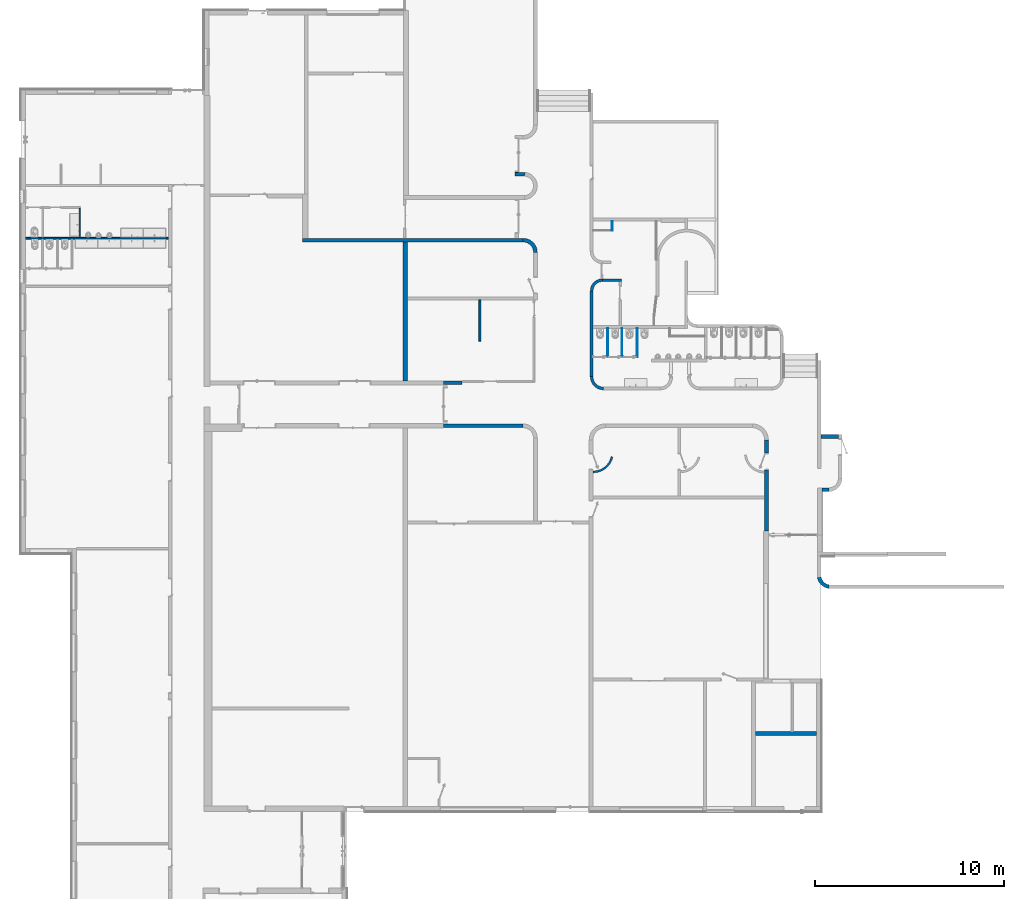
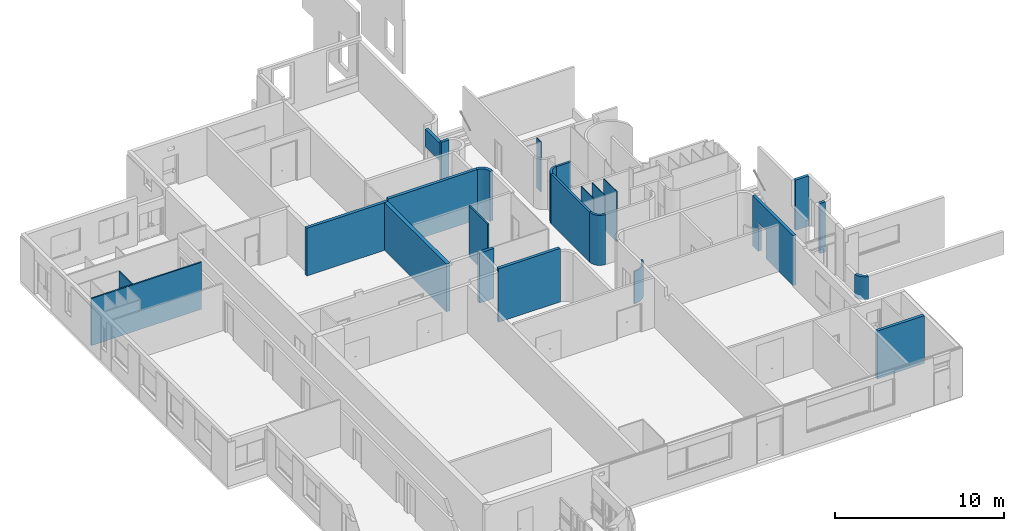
# One storey, part 6 of 9: 24 walls, 2 openings.
"""IFC2X3 building model written with IfcOpenShell, lengths in metres."""

from ifc_helpers import new_model, entity, si_unit, converted_unit, derived_unit, direction, frame, frame_2d, origin, place, context, subcontext, project, spatial, polyline, circle_curve, parameter, trimmed, segment, composite_curve, rectangle, outline, extrude, clip, halfspace, bounded_halfspace, material, layer, layer_set, layer_usage, type_object, element, save


model = new_model("IFC2X3")

# Units and contexts
model_context = context("Model", 3, precision=1e-05, world=origin(), true_north=direction((6.12303176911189e-17, 1.0)))
body_context = subcontext(model_context, "Body", "Model", "MODEL_VIEW")
ifc_project = project(units=[si_unit("LENGTHUNIT", "METRE"), si_unit("AREAUNIT", "SQUARE_METRE"), si_unit("VOLUMEUNIT", "CUBIC_METRE"), converted_unit("PLANEANGLEUNIT", "DEGREE", entity("IfcRatioMeasure", 0.0174532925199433), si_unit("PLANEANGLEUNIT", "RADIAN"), dimensions=[0, 0, 0, 0, 0, 0, 0]), si_unit("MASSUNIT", "GRAM", prefix="KILO"), derived_unit("MASSDENSITYUNIT", [(si_unit("MASSUNIT", "GRAM", prefix="KILO"), 1), (si_unit("LENGTHUNIT", "METRE"), -3)]), derived_unit("MOMENTOFINERTIAUNIT", [(si_unit("LENGTHUNIT", "METRE"), 4)]), si_unit("TIMEUNIT", "SECOND"), si_unit("FREQUENCYUNIT", "HERTZ"), si_unit("THERMODYNAMICTEMPERATUREUNIT", "DEGREE_CELSIUS"), derived_unit("THERMALTRANSMITTANCEUNIT", [(si_unit("MASSUNIT", "GRAM", prefix="KILO"), 1), (si_unit("THERMODYNAMICTEMPERATUREUNIT", "KELVIN"), -1), (si_unit("TIMEUNIT", "SECOND"), -3)]), derived_unit("VOLUMETRICFLOWRATEUNIT", [(si_unit("LENGTHUNIT", "METRE"), 3), (si_unit("TIMEUNIT", "SECOND"), -1)]), si_unit("ELECTRICCURRENTUNIT", "AMPERE"), si_unit("ELECTRICVOLTAGEUNIT", "VOLT"), si_unit("POWERUNIT", "WATT"), si_unit("FORCEUNIT", "NEWTON", prefix="KILO"), si_unit("ILLUMINANCEUNIT", "LUX"), si_unit("LUMINOUSFLUXUNIT", "LUMEN"), si_unit("LUMINOUSINTENSITYUNIT", "CANDELA"), derived_unit("USERDEFINED", [(si_unit("MASSUNIT", "GRAM", prefix="KILO"), -1), (si_unit("LENGTHUNIT", "METRE"), -2), (si_unit("TIMEUNIT", "SECOND"), 3), (si_unit("LUMINOUSFLUXUNIT", "LUMEN"), 1)]), derived_unit("LINEARVELOCITYUNIT", [(si_unit("LENGTHUNIT", "METRE"), 1), (si_unit("TIMEUNIT", "SECOND"), -1)]), si_unit("PRESSUREUNIT", "PASCAL"), derived_unit("USERDEFINED", [(si_unit("LENGTHUNIT", "METRE"), -2), (si_unit("MASSUNIT", "GRAM", prefix="KILO"), 1), (si_unit("TIMEUNIT", "SECOND"), -2)]), derived_unit("LINEARFORCEUNIT", [(si_unit("MASSUNIT", "GRAM", prefix="KILO"), 1), (si_unit("LENGTHUNIT", "METRE"), 1), (si_unit("TIMEUNIT", "SECOND"), -2), (si_unit("LENGTHUNIT", "METRE"), -1)]), derived_unit("PLANARFORCEUNIT", [(si_unit("MASSUNIT", "GRAM", prefix="KILO"), 1), (si_unit("LENGTHUNIT", "METRE"), 1), (si_unit("TIMEUNIT", "SECOND"), -2), (si_unit("LENGTHUNIT", "METRE"), -2)])], contexts=[model_context])

# Site, building, storey
site_placement = place(None, origin())
site = spatial("IfcSite", under=ifc_project, at=site_placement, Name="Default", CompositionType="ELEMENT")
building_placement = place(site_placement, origin())
building = spatial("IfcBuilding", under=site, at=building_placement, CompositionType="ELEMENT")
storey_placement = place(building_placement, frame((0.0, 0.0, 0.253308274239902)))
storey = spatial("IfcBuildingStorey", under=building, at=storey_placement, Name="Niveau 00 - 01", CompositionType="ELEMENT", Elevation=0.253308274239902)

# Walls
ifc_material_1 = material(Name="Maçonnerie - Voile BA")
ifc_layer_1 = layer(ifc_material_1, 0.25)
ifc_layer_set_1 = layer_set([ifc_layer_1], Name="Mur de base:Ext. Voile BA 250")
ifc_layer_usage_1 = layer_usage(ifc_layer_set_1, "AXIS2", "NEGATIVE", 0.125)
wall_type_1 = type_object("IfcWallType", Name="Mur de base:Ext. Voile BA 250", PredefinedType="STANDARD", material=ifc_layer_set_1)
wall_1_placement = place(storey_placement, frame((-25.7189891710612, -4.41874124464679, 0.0), z_axis=(0.0, 0.0, 1.0), x_axis=(0.0, -1.0, 0.0)))
element("IfcWallStandardCase", 1, at=wall_1_placement, inside=storey, type_object=wall_type_1, material=ifc_layer_usage_1, Name="Mur de base:Ext. Voile BA 250", ObjectType="Mur de base:Ext. Voile BA 250", context=body_context, shape_type="Clipping", body=[
    clip(extrude(rectangle(XDim=7.33031306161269, YDim=0.250000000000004, at=frame_2d((3.66515653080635, 1.94289029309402e-16), x_axis=(-1.0, 0.0))), origin(), (0.0, 0.0, 1.0), 3.45), bounded_halfspace(frame((0.0, -0.124999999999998, 3.45), z_axis=(0.0, 0.0, -1.0), x_axis=(0.0, -1.0, 0.0)), True, frame((0.0, -0.124999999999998, 3.45)), polyline([(0.0, 0.0), (7.33031306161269, 0.0), (7.33031306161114, 0.25), (0.0, 0.249999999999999), (0.0, 0.0)]))),
])
ifc_material_2 = material(Name="Finition vertical béton")
ifc_layer_2 = layer(ifc_material_2, 0.03)
ifc_layer_3 = layer(ifc_material_1, 0.17)
ifc_layer_set_2 = layer_set([ifc_layer_2, ifc_layer_3], Name="Mur de base:Mur EXE 200- Hach")
ifc_layer_usage_2 = layer_usage(ifc_layer_set_2, "AXIS2", "POSITIVE", -0.1)
wall_type_2 = type_object("IfcWallType", Name="Mur de base:Mur EXE 200- Hach", PredefinedType="STANDARD", material=ifc_layer_set_2)
wall_2_placement = place(storey_placement, frame((-3.31775009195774, -22.6341095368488, -0.303308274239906), z_axis=(0.0, 0.0, 1.0), x_axis=(-1.0, 0.0, 0.0)))
element("IfcWallStandardCase", 2, at=wall_2_placement, inside=storey, type_object=wall_type_2, material=ifc_layer_usage_2, Name="Mur de base:Mur EXE 200- Hach", ObjectType="Mur de base:Mur EXE 200- Hach", context=body_context, shape_type="SweptSolid", body=[
    extrude(outline(composite_curve([segment(trimmed(circle_curve(frame_2d((-0.100533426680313, -0.633695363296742), x_axis=(1.0, 0.0)), 0.741620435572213), [parameter(11.4843626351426)], [parameter(80.9853641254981)], True, "PARAMETER"), True, "CONTINUOUS"), segment(polyline([(0.0156686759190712, 0.0987648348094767), (-0.00134253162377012, -0.101235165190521)]), True, "CONTINUOUS"), segment(trimmed(circle_curve(frame_2d((-0.100533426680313, -0.633695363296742), x_axis=(1.0, 0.0)), 0.541620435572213), [parameter(13.446836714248)], [parameter(79.4474487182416)], True, "PARAMETER"), False, "CONTINUOUS"), segment(polyline([(0.426239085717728, -0.507745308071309), (0.626239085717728, -0.486038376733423)]), True, "CONTINUOUS")], self_intersect=False)), origin(), (0.0, 0.0, 1.0), 1.65233564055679),
])
ifc_layer_4 = layer(ifc_material_1, 0.2)
ifc_layer_set_3 = layer_set([ifc_layer_4], Name="Mur de base:Ext. Voile BA 200")
ifc_layer_usage_3 = layer_usage(ifc_layer_set_3, "AXIS2", "NEGATIVE", 0.1)
wall_type_3 = type_object("IfcWallType", Name="Mur de base:Ext. Voile BA 200", PredefinedType="STANDARD", material=ifc_layer_set_3)
wall_3_placement = place(storey_placement, frame((-31.1511142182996, -4.31874124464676, 0.0)))
element("IfcWallStandardCase", 3, at=wall_3_placement, inside=storey, type_object=wall_type_3, material=ifc_layer_usage_3, Name="Mur de base:Ext. Voile BA 200", ObjectType="Mur de base:Ext. Voile BA 200", context=body_context, shape_type="Clipping", body=[
    clip(clip(extrude(rectangle(XDim=11.6571250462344, YDim=0.2, at=frame_2d((5.82856252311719, 1.73472347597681e-16), x_axis=(-1.0, 0.0))), origin(), (0.0, 0.0, 1.0), 3.61856448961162), bounded_halfspace(frame((5.5571250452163, -0.1, 3.61856448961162), z_axis=(0.0, 0.0, -1.0), x_axis=(0.0, 1.0, 0.0)), True, frame((5.5571250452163, -0.1, 3.61856448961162)), polyline([(0.0, 0.0), (6.10000000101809, 0.0), (6.10000000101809, 0.200000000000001), (0.0, 0.2), (0.0, 0.0)]))), bounded_halfspace(frame((0.0, -0.1, 3.45), z_axis=(0.0, 0.0, -1.0), x_axis=(-1.0, 0.0, 0.0)), True, frame((0.0, -0.1, 3.45)), polyline([(0.0, 0.0), (5.3071250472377, 0.0), (5.55712504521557, 0.0), (5.55712504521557, 0.199999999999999), (5.4471250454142, 0.2), (5.3471250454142, 0.2), (0.0, 0.2), (0.0, 0.0)]))),
])
ifc_layer_usage_4 = layer_usage(ifc_layer_set_3, "AXIS2", "POSITIVE", -0.1)
wall_4_placement = place(storey_placement, frame((-19.4939891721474, -4.3187412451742, 0.0), z_axis=(0.0, 0.0, 1.0), x_axis=(0.0, 1.0, 0.0)))
element("IfcWallStandardCase", 4, at=wall_4_placement, inside=storey, type_object=wall_type_3, material=ifc_layer_usage_4, Name="Mur de base:Ext. Voile BA 200", ObjectType="Mur de base:Ext. Voile BA 200", context=body_context, shape_type="Clipping", body=[
    clip(extrude(outline(composite_curve([segment(trimmed(circle_curve(frame_2d((-0.649999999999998, 0.0), x_axis=(1.0, 0.0)), 0.749999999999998), [parameter(269.997515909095)], [parameter(9.15999748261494e-13)], True, "PARAMETER"), True, "CONTINUOUS"), segment(polyline([(0.1, 0.0), (-0.1, 0.0)]), True, "CONTINUOUS"), segment(trimmed(circle_curve(frame_2d((-0.649999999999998, 0.0), x_axis=(1.0, 0.0)), 0.549999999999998), [parameter(269.997515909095)], [parameter(9.15999748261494e-13)], True, "PARAMETER"), False, "CONTINUOUS"), segment(polyline([(-0.650023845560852, -0.549999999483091), (-0.650032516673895, -0.749999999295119)]), True, "CONTINUOUS")], self_intersect=False)), origin(), (0.0, 0.0, 1.0), 3.61856448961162), halfspace(frame((-0.650032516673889, -0.749999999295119, 3.61856448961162), z_axis=(0.0, 0.0, -1.0), x_axis=(1.0, 0.0, 0.0)), True)),
])
ifc_layer_usage_5 = layer_usage(ifc_layer_set_3, "AXIS2", "NEGATIVE", 0.1)
wall_5_placement = place(storey_placement, frame((-19.398753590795, -0.834186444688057, 0.0), z_axis=(0.0, 0.0, 1.0), x_axis=(-1.0, 0.0, 0.0)))
element("IfcWallStandardCase", 5, at=wall_5_placement, inside=storey, type_object=wall_type_3, material=ifc_layer_usage_5, Name="Mur de base:Ext. Voile BA 200", ObjectType="Mur de base:Ext. Voile BA 200", context=body_context, shape_type="Clipping", body=[
    clip(extrude(outline(polyline([(0.524709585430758, -0.0999999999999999), (0.524709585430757, 0.1), (0.0098179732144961, 0.1), (0.0, -0.1), (0.324709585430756, -0.0999999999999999), (0.524709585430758, -0.0999999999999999)])), origin(), (0.0, 0.0, 1.0), 3.61856448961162), bounded_halfspace(frame((0.0, -0.1, 3.61856448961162), z_axis=(0.0, 0.0, -1.0), x_axis=(0.0, -1.0, 0.0)), True, frame((0.0, -0.1, 3.61856448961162)), polyline([(0.0, 0.0), (0.524709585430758, 0.0), (0.524709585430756, 0.2), (0.0098179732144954, 0.2), (0.0, 0.0)]))),
])

# Wall, opening
ifc_layer_usage_6 = layer_usage(ifc_layer_set_3, "AXIS2", "NEGATIVE", 0.1)
wall_6_placement = place(storey_placement, frame((-19.8234631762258, 1.01629120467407, 0.0), z_axis=(0.0, 0.0, 1.0), x_axis=(0.0, -1.0, 0.0)))
wall_6 = element("IfcWallStandardCase", 6, at=wall_6_placement, inside=storey, type_object=wall_type_3, material=ifc_layer_usage_6, Name="Mur de base:Ext. Voile BA 200", ObjectType="Mur de base:Ext. Voile BA 200", context=body_context, shape_type="SweptSolid", body=[
    extrude(rectangle(XDim=1.75047764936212, YDim=0.199999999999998, at=frame_2d((0.875238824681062, 0.0), x_axis=(-1.0, 0.0))), origin(), (0.0, 0.0, 1.0), 3.4),
])
opening_1_placement = place(wall_6_placement, frame((-0.0763205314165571, -0.1, 0.0)))
element("IfcOpeningElement", 7, at=opening_1_placement, cuts=wall_6, Name="Double (R):1.73m x 2.10m:1", ObjectType="Opening", context=body_context, shape_type="SweptSolid", body=[
    extrude(rectangle(XDim=2.13500000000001, YDim=1.8, at=frame_2d((1.0675, 0.899999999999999), x_axis=(1.0, 0.0))), frame((0.0, 0.0, 0.0), z_axis=(0.0, 1.0, 0.0), x_axis=(0.0, 0.0, 1.0)), (0.0, 0.0, 1.0), 0.2),
])

ifc_layer_usage_7 = layer_usage(ifc_layer_set_3, "AXIS2", "NEGATIVE", 0.1)
wall_7_placement = place(storey_placement, frame((-6.63108632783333, -14.8791151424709, 0.0), z_axis=(0.0, 0.0, 1.0), x_axis=(0.0, -1.0, 0.0)))
wall_7 = element("IfcWallStandardCase", 8, at=wall_7_placement, inside=storey, type_object=wall_type_3, material=ifc_layer_usage_7, Name="Mur de base:Ext. Voile BA 200", ObjectType="Mur de base:Ext. Voile BA 200", context=body_context, shape_type="Clipping", body=[
    clip(extrude(rectangle(XDim=4.7974427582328, YDim=0.2, at=frame_2d((2.3987213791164, 3.46944695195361e-17), x_axis=(-1.0, 0.0))), origin(), (0.0, 0.0, 1.0), 3.61856448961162), bounded_halfspace(frame((0.0, -0.100000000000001, 3.61856448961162), z_axis=(0.0, 0.0, -1.0), x_axis=(-1.0, 0.0, 0.0)), True, frame((0.0, -0.100000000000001, 3.61856448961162)), polyline([(0.0, 0.0), (4.79744275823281, 0.0), (4.79744275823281, 0.2), (0.0, 0.2), (0.0, 0.0)]))),
])
opening_2_placement = place(wall_7_placement, frame((1.58997341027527, 0.0999999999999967, 0.0)))
element("IfcOpeningElement", 9, at=opening_2_placement, cuts=wall_7, Name="@_Int. Simple:@_PP (0.83m x 2.04m):1", ObjectType="Opening", context=body_context, shape_type="SweptSolid", body=[
    extrude(rectangle(XDim=2.075, YDim=0.9, at=frame_2d((1.0375, 0.45), x_axis=(1.0, 0.0))), frame((0.0, 0.0, 0.0), z_axis=(0.0, -1.0, 0.0), x_axis=(0.0, 0.0, 1.0)), (0.0, 0.0, 1.0), 0.2),
])

# Walls
ifc_layer_usage_8 = layer_usage(ifc_layer_set_3, "AXIS2", "NEGATIVE", 0.1)
wall_8_placement = place(storey_placement, frame((-3.69398917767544, -17.50604225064, 0.0)))
element("IfcWallStandardCase", 10, at=wall_8_placement, inside=storey, type_object=wall_type_3, material=ifc_layer_usage_8, Name="Mur de base:Ext. Voile BA 200", ObjectType="Mur de base:Ext. Voile BA 200", context=body_context, shape_type="Clipping", body=[
    clip(extrude(rectangle(XDim=0.361319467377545, YDim=0.199999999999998, at=frame_2d((0.180659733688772, 1.59594559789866e-16), x_axis=(-1.0, 0.0))), origin(), (0.0, 0.0, 1.0), 3.61856448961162), bounded_halfspace(frame((0.0, -0.100000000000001, 3.61856448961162), z_axis=(0.0, 0.0, -1.0), x_axis=(0.0, 1.0, 0.0)), True, frame((0.0, -0.100000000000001, 3.61856448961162)), polyline([(0.0, 0.0), (0.361319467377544, 0.0), (0.361319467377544, 0.2), (0.0, 0.2), (0.0, 0.0)]))),
])
ifc_layer_usage_9 = layer_usage(ifc_layer_set_3, "AXIS2", "NEGATIVE", 0.1)
wall_9_placement = place(storey_placement, frame((-3.74398917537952, -14.6903225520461, 0.0)))
element("IfcWallStandardCase", 11, at=wall_9_placement, inside=storey, type_object=wall_type_3, material=ifc_layer_usage_9, Name="Mur de base:Ext. Voile BA 200", ObjectType="Mur de base:Ext. Voile BA 200", context=body_context, shape_type="Clipping", body=[
    clip(extrude(rectangle(XDim=0.911319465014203, YDim=0.199999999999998, at=frame_2d((0.455659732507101, -1.17961196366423e-16), x_axis=(-1.0, 0.0))), origin(), (0.0, 0.0, 1.0), 3.61856448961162), bounded_halfspace(frame((0.0, -0.100000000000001, 3.61856448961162), z_axis=(0.0, 0.0, -1.0), x_axis=(0.0, 1.0, 0.0)), True, frame((0.0, -0.100000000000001, 3.61856448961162)), polyline([(0.0, 0.0), (0.911319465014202, 0.0), (0.911319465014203, 0.2), (0.0, 0.2), (0.0, 0.0)]))),
])
ifc_layer_usage_10 = layer_usage(ifc_layer_set_3, "AXIS2", "NEGATIVE", 0.1)
wall_10_placement = place(storey_placement, frame((-23.7076330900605, -14.1291151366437, 0.0)))
element("IfcWallStandardCase", 12, at=wall_10_placement, inside=storey, type_object=wall_type_3, material=ifc_layer_usage_10, Name="Mur de base:Ext. Voile BA 200", ObjectType="Mur de base:Ext. Voile BA 200", context=body_context, shape_type="SweptSolid", body=[
    extrude(rectangle(XDim=4.21364391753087, YDim=0.199999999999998, at=frame_2d((2.10682195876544, -2.22044604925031e-16), x_axis=(-1.0, 0.0))), origin(), (0.0, 0.0, 1.0), 3.86856448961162),
])
ifc_layer_usage_11 = layer_usage(ifc_layer_set_3, "AXIS2", "NEGATIVE", 0.1)
wall_11_placement = place(storey_placement, frame((-23.7076330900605, -11.8590543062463, 0.0)))
element("IfcWallStandardCase", 13, at=wall_11_placement, inside=storey, type_object=wall_type_3, material=ifc_layer_usage_11, Name="Mur de base:Ext. Voile BA 200", ObjectType="Mur de base:Ext. Voile BA 200", context=body_context, shape_type="Clipping", body=[
    clip(extrude(rectangle(XDim=0.998643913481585, YDim=0.199999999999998, at=frame_2d((0.499321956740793, 2.63677968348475e-16), x_axis=(-1.0, 0.0))), origin(), (0.0, 0.0, 1.0), 3.61856448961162), bounded_halfspace(frame((0.0, -0.100000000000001, 3.61856448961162), z_axis=(0.0, 0.0, -1.0), x_axis=(0.0, 1.0, 0.0)), True, frame((0.0, -0.100000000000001, 3.61856448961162)), polyline([(0.0, 0.0), (0.199999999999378, 0.0), (0.998643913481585, 0.0), (0.998643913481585, 0.200000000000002), (0.0, 0.2), (0.0, 0.0)]))),
])
ifc_material_3 = material(Name="Mur par défaut")
ifc_layer_5 = layer(ifc_material_3, 0.2)
ifc_layer_set_4 = layer_set([ifc_layer_5], Name="Mur de base:@_Générique - Int. 200 mm")
ifc_layer_usage_12 = layer_usage(ifc_layer_set_4, "AXIS2", "NEGATIVE", 0.1)
wall_type_4 = type_object("IfcWallType", Name="Mur de base:@_Générique - Int. 200 mm", PredefinedType="STANDARD", material=ifc_layer_set_4)
wall_12_placement = place(storey_placement, frame((-3.99594833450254, -30.3890543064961, 0.0), z_axis=(0.0, 0.0, 1.0), x_axis=(-1.0, 0.0, 0.0)))
element("IfcWallStandardCase", 14, at=wall_12_placement, inside=storey, type_object=wall_type_4, material=ifc_layer_usage_12, Name="Mur de base:@_Générique - Int. 200 mm", ObjectType="Mur de base:@_Générique - Int. 200 mm", context=body_context, shape_type="Clipping", body=[
    clip(extrude(rectangle(XDim=3.21999999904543, YDim=0.199999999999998, at=frame_2d((1.60999999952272, -8.04911692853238e-16), x_axis=(-1.0, 0.0))), origin(), (0.0, 0.0, 1.0), 3.45), bounded_halfspace(frame((0.0, -0.100000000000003, 3.45), z_axis=(0.0, 0.0, -1.0), x_axis=(1.0, 0.0, 0.0)), True, frame((0.0, -0.100000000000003, 3.45)), polyline([(0.0, 0.0), (1.21999999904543, 0.0), (1.31999999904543, 0.0), (3.21999999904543, 0.0), (3.21999999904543, 0.200000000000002), (0.0, 0.200000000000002), (0.0, 0.0)]))),
])
ifc_layer_6 = layer(ifc_material_3, 0.1)
ifc_layer_set_5 = layer_set([ifc_layer_6], Name="Mur de base:@_Générique - Int. 100 mm")
ifc_layer_usage_13 = layer_usage(ifc_layer_set_5, "AXIS2", "NEGATIVE", 0.05)
wall_type_5 = type_object("IfcWallType", Name="Mur de base:@_Générique - Int. 100 mm", PredefinedType="STANDARD", material=ifc_layer_set_5)
wall_13_placement = place(storey_placement, frame((-45.7892374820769, -4.21482297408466, 0.0)))
element("IfcWallStandardCase", 15, at=wall_13_placement, inside=storey, type_object=wall_type_5, material=ifc_layer_usage_13, Name="Mur de base:@_Générique - Int. 100 mm", ObjectType="Mur de base:@_Générique - Int. 100 mm", context=body_context, shape_type="Clipping", body=[
    clip(extrude(rectangle(XDim=7.54524830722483, YDim=0.1, at=frame_2d((3.77262415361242, -8.67361737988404e-17), x_axis=(-1.0, 0.0))), origin(), (0.0, 0.0, 1.0), 3.4), bounded_halfspace(frame((0.0, -0.05, 3.4), z_axis=(0.0, 0.0, -1.0), x_axis=(0.0, -1.0, 0.0)), True, frame((0.0, -0.05, 3.4)), polyline([(0.0, 0.0), (0.854999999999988, 0.0), (0.924999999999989, 0.0), (1.65499999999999, 0.0), (1.72499999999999, 0.0), (2.41999999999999, 0.0), (2.48999999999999, 0.0), (7.54524830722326, 0.0), (7.54524830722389, 0.1), (2.90529815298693, 0.1), (2.83529815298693, 0.1), (0.949516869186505, 0.1), (0.879516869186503, 0.1), (0.0, 0.1), (0.0, 0.0)]))),
])
ifc_layer_usage_14 = layer_usage(ifc_layer_set_5, "AXIS2", "NEGATIVE", 0.05)
wall_14_placement = place(storey_placement, frame((-15.7984509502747, -16.5614132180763, 0.0), z_axis=(0.0, 0.0, 1.0), x_axis=(-0.353984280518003, 0.935251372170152, 0.0)))
element("IfcWallStandardCase", 16, at=wall_14_placement, inside=storey, type_object=wall_type_5, material=ifc_layer_usage_14, Name="Mur de base:@_Générique - Int. 100 mm", ObjectType="Mur de base:@_Générique - Int. 100 mm", context=body_context, shape_type="SweptSolid", body=[
    extrude(outline(composite_curve([segment(trimmed(circle_curve(frame_2d((0.938902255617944, -0.372239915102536), x_axis=(1.0, 0.0)), 0.960000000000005), [parameter(158.373510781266)], [parameter(237.16047499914)], True, "PARAMETER"), False, "CONTINUOUS"), segment(polyline([(0.0464803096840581, -0.0184277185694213), (-0.0470551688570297, 0.0169746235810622)]), True, "CONTINUOUS"), segment(trimmed(circle_curve(frame_2d((0.938902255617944, -0.372239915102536), x_axis=(1.0, 0.0)), 1.06), [parameter(158.457977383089)], [parameter(237.16047499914)], True, "PARAMETER"), True, "CONTINUOUS"), segment(polyline([(0.364077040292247, -1.26284418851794), (0.418305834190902, -1.17882491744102)]), True, "CONTINUOUS")], self_intersect=False)), origin(), (0.0, 0.0, 1.0), 2.35),
])
ifc_layer_usage_15 = layer_usage(ifc_layer_set_5, "AXIS2", "POSITIVE", -0.05)
wall_15_placement = place(storey_placement, frame((-21.7791642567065, -7.46874124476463, 0.0), z_axis=(0.0, 0.0, 1.0), x_axis=(0.0, -1.0, 0.0)))
element("IfcWallStandardCase", 17, at=wall_15_placement, inside=storey, type_object=wall_type_5, material=ifc_layer_usage_15, Name="Mur de base:@_Générique - Int. 100 mm", ObjectType="Mur de base:@_Générique - Int. 100 mm", context=body_context, shape_type="SweptSolid", body=[
    extrude(rectangle(XDim=2.185, YDim=0.100000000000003, at=frame_2d((1.0925, 5.93275428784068e-16), x_axis=(-1.0, 0.0))), origin(), (0.0, 0.0, 1.0), 3.66856448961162),
])
ifc_layer_7 = layer(ifc_material_1, 0.15)
ifc_layer_set_6 = layer_set([ifc_layer_7], Name="Mur de base:Ext. Voile BA 150")
ifc_layer_usage_16 = layer_usage(ifc_layer_set_6, "AXIS2", "NEGATIVE", 0.075)
wall_type_6 = type_object("IfcWallType", Name="Mur de base:Ext. Voile BA 150", PredefinedType="STANDARD", material=ifc_layer_set_6)
wall_16_placement = place(storey_placement, frame((-15.8689891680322, -7.00905431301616, 0.0), z_axis=(0.0, 0.0, 1.0), x_axis=(0.0, -1.0, 0.0)))
element("IfcWallStandardCase", 18, at=wall_16_placement, inside=storey, type_object=wall_type_6, material=ifc_layer_usage_16, Name="Mur de base:Ext. Voile BA 150", ObjectType="Mur de base:Ext. Voile BA 150", context=body_context, shape_type="Clipping", body=[
    clip(extrude(rectangle(XDim=4.52006082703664, YDim=0.150000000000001, at=frame_2d((2.26003041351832, 4.85722573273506e-17), x_axis=(-1.0, 0.0))), origin(), (0.0, 0.0, 1.0), 3.61856448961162), bounded_halfspace(frame((0.0, -0.075000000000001, 3.61856448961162), z_axis=(0.0, 0.0, -1.0), x_axis=(-1.0, 0.0, 0.0)), True, frame((0.0, -0.075000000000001, 3.61856448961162)), polyline([(0.0, 0.0), (4.52006082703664, 0.0), (4.52006082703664, 0.150000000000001), (3.49839777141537, 0.150000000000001), (3.44839777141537, 0.150000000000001), (1.96756082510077, 0.150000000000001), (1.81756082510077, 0.15), (0.0, 0.150000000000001), (0.0, 0.0)]))),
])
ifc_layer_usage_17 = layer_usage(ifc_layer_set_6, "AXIS2", "POSITIVE", -0.075)
wall_17_placement = place(storey_placement, frame((-15.2439891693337, -12.1541151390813, 0.0), z_axis=(0.0, 0.0, 1.0), x_axis=(0.0, -1.0, 0.0)))
element("IfcWallStandardCase", 19, at=wall_17_placement, inside=storey, type_object=wall_type_6, material=ifc_layer_usage_17, Name="Mur de base:Ext. Voile BA 150", ObjectType="Mur de base:Ext. Voile BA 150", context=body_context, shape_type="Clipping", body=[
    clip(extrude(outline(composite_curve([segment(trimmed(circle_curve(frame_2d((-0.624999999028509, 0.0), x_axis=(1.0, 0.0)), 0.699999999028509), [parameter(269.999999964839)], [parameter(359.99999996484)], True, "PARAMETER"), True, "CONTINUOUS"), segment(polyline([(0.0750000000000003, 0.0), (-0.0750000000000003, 0.0)]), True, "CONTINUOUS"), segment(trimmed(circle_curve(frame_2d((-0.624999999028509, 0.0), x_axis=(1.0, 0.0)), 0.549999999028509), [parameter(269.999999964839)], [parameter(359.99999996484)], True, "PARAMETER"), False, "CONTINUOUS"), segment(polyline([(-0.624999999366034, -0.549999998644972), (-0.624999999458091, -0.699999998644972)]), True, "CONTINUOUS")], self_intersect=False)), origin(), (0.0, 0.0, 1.0), 3.61856448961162), halfspace(frame((-0.624999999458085, -0.699999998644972, 3.61856448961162), z_axis=(0.0, 0.0, -1.0), x_axis=(-1.0, 0.0, 0.0)), True)),
])
ifc_layer_usage_18 = layer_usage(ifc_layer_set_6, "AXIS2", "POSITIVE", -0.075)
wall_18_placement = place(storey_placement, frame((-14.3005891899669, -6.4340543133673, 0.0), z_axis=(0.0, 0.0, 1.0), x_axis=(-1.0, 0.0, 0.0)))
element("IfcWallStandardCase", 20, at=wall_18_placement, inside=storey, type_object=wall_type_6, material=ifc_layer_usage_18, Name="Mur de base:Ext. Voile BA 150", ObjectType="Mur de base:Ext. Voile BA 150", context=body_context, shape_type="Clipping", body=[
    clip(extrude(rectangle(XDim=0.993399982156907, YDim=0.150000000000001, at=frame_2d((0.496699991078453, 4.09394740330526e-16), x_axis=(-1.0, 0.0))), origin(), (0.0, 0.0, 1.0), 3.61856448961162), bounded_halfspace(frame((0.0, -0.0749999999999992, 3.61856448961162), z_axis=(0.0, 0.0, -1.0), x_axis=(0.0, -1.0, 0.0)), True, frame((0.0, -0.0749999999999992, 3.61856448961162)), polyline([(0.0, 0.0), (0.96261055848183, 0.0), (0.993399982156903, 0.0), (0.993399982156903, 0.150000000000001), (0.0, 0.149999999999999), (0.0, 0.0)]))),
])
ifc_layer_usage_19 = layer_usage(ifc_layer_set_6, "AXIS2", "POSITIVE", -0.075)
wall_19_placement = place(storey_placement, frame((-15.2939891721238, -6.43405431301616, 0.0), z_axis=(0.0, 0.0, 1.0), x_axis=(0.0, 1.0, 0.0)))
element("IfcWallStandardCase", 21, at=wall_19_placement, inside=storey, type_object=wall_type_6, material=ifc_layer_usage_19, Name="Mur de base:Ext. Voile BA 150", ObjectType="Mur de base:Ext. Voile BA 150", context=body_context, shape_type="Clipping", body=[
    clip(extrude(outline(composite_curve([segment(trimmed(circle_curve(frame_2d((-0.575000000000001, 0.0), x_axis=(1.0, 0.0)), 0.500000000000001), [parameter(3.51602941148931e-08)], [parameter(90.0000000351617)], True, "PARAMETER"), False, "CONTINUOUS"), segment(polyline([(-0.0750000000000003, 0.0), (0.0749999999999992, 0.0)]), True, "CONTINUOUS"), segment(trimmed(circle_curve(frame_2d((-0.575000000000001, 0.0), x_axis=(1.0, 0.0)), 0.650000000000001), [parameter(3.51603079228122e-08)], [parameter(90.0000000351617)], True, "PARAMETER"), True, "CONTINUOUS"), segment(polyline([(-0.575000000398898, 0.649999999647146), (-0.575000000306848, 0.499999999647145)]), True, "CONTINUOUS")], self_intersect=False)), origin(), (0.0, 0.0, 1.0), 3.61856448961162), halfspace(frame((-0.575000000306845, 0.499999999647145, 3.61856448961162), z_axis=(0.0, 0.0, -1.0), x_axis=(1.0, 0.0, 0.0)), True)),
])
ifc_layer_8 = layer(ifc_material_3, 0.07)
ifc_layer_set_7 = layer_set([ifc_layer_8], Name="Mur de base:@_Générique - Int. 70 mm")
ifc_layer_usage_20 = layer_usage(ifc_layer_set_7, "AXIS2", "NEGATIVE", 0.035)
wall_type_7 = type_object("IfcWallType", Name="Mur de base:@_Générique - Int. 70 mm", PredefinedType="STANDARD", material=ifc_layer_set_7)
wall_20_placement = place(storey_placement, frame((-42.9189393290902, -4.1648229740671, 0.0), z_axis=(0.0, 0.0, 1.0), x_axis=(0.0, 1.0, 0.0)))
element("IfcWallStandardCase", 22, at=wall_20_placement, inside=storey, type_object=wall_type_7, material=ifc_layer_usage_20, Name="Mur de base:@_Générique - Int. 70 mm", ObjectType="Mur de base:@_Générique - Int. 70 mm", context=body_context, shape_type="Clipping", body=[
    clip(extrude(rectangle(XDim=1.53162112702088, YDim=0.0700000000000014, at=frame_2d((0.76581056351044, 3.7470027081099e-16), x_axis=(-1.0, 0.0))), origin(), (0.0, 0.0, 1.0), 3.4), bounded_halfspace(frame((0.0, -0.0350000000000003, 3.4), z_axis=(0.0, 0.0, -1.0), x_axis=(-1.0, 0.0, 0.0)), True, frame((0.0, -0.0350000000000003, 3.4)), polyline([(0.0, 0.0), (1.53162112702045, 0.0), (1.53162112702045, 0.0700000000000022), (0.0, 0.0700000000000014), (0.0, 0.0)]))),
])
ifc_layer_9 = layer(ifc_material_3, 0.05)
ifc_layer_set_8 = layer_set([ifc_layer_9], Name="Mur de base:@_Générique - Int. 50 mm")
ifc_layer_usage_21 = layer_usage(ifc_layer_set_8, "AXIS2", "NEGATIVE", 0.025)
wall_type_8 = type_object("IfcWallType", Name="Mur de base:@_Générique - Int. 50 mm", PredefinedType="STANDARD", material=ifc_layer_set_8)
wall_21_placement = place(storey_placement, frame((-14.7924809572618, -3.83233982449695, 0.0), z_axis=(0.0, 0.0, 1.0), x_axis=(0.0, 1.0, 0.0)))
element("IfcWallStandardCase", 23, at=wall_21_placement, inside=storey, type_object=wall_type_8, material=ifc_layer_usage_21, Name="Mur de base:@_Générique - Int. 50 mm", ObjectType="Mur de base:@_Générique - Int. 50 mm", context=body_context, shape_type="Clipping", body=[
    clip(extrude(rectangle(XDim=0.523224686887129, YDim=0.0500000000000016, at=frame_2d((0.261612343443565, 0.0), x_axis=(-1.0, 0.0))), origin(), (0.0, 0.0, 1.0), 3.61856448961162), bounded_halfspace(frame((0.0, -0.0249999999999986, 3.61856448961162), z_axis=(0.0, 0.0, -1.0), x_axis=(1.0, 0.0, 0.0)), True, frame((0.0, -0.0249999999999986, 3.61856448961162)), polyline([(0.0, 0.0), (0.523224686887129, 0.0), (0.523224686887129, 0.0499999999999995), (0.05, 0.0499999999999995), (0.0, 0.0499999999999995), (0.0, 0.0)]))),
])
ifc_layer_usage_22 = layer_usage(ifc_layer_set_8, "AXIS2", "NEGATIVE", 0.025)
wall_22_placement = place(storey_placement, frame((-13.4689891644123, -10.5074520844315, 0.0), z_axis=(0.0, 0.0, 1.0), x_axis=(0.0, 1.0, 0.0)))
element("IfcWallStandardCase", 24, at=wall_22_placement, inside=storey, type_object=wall_type_8, material=ifc_layer_usage_22, Name="Mur de base:@_Générique - Int. 50 mm", ObjectType="Mur de base:@_Générique - Int. 50 mm", context=body_context, shape_type="Clipping", body=[
    clip(extrude(rectangle(XDim=1.5308369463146, YDim=0.0500000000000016, at=frame_2d((0.765418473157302, 0.0), x_axis=(-1.0, 0.0))), origin(), (0.0, 0.0, 1.0), 3.61856448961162), bounded_halfspace(frame((0.0, -0.0249999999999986, 3.61856448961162), z_axis=(0.0, 0.0, -1.0), x_axis=(1.0, 0.0, 0.0)), True, frame((0.0, -0.0249999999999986, 3.61856448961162)), polyline([(0.0, 0.0), (1.5308369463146, 0.0), (1.5308369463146, 0.0499999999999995), (0.0499999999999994, 0.0499999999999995), (0.0, 0.0499999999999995), (0.0, 0.0)]))),
])
ifc_layer_usage_23 = layer_usage(ifc_layer_set_8, "AXIS2", "NEGATIVE", 0.025)
wall_23_placement = place(storey_placement, frame((-14.2655891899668, -10.4574520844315, 0.0), z_axis=(0.0, 0.0, 1.0), x_axis=(0.0, 1.0, 0.0)))
element("IfcWallStandardCase", 25, at=wall_23_placement, inside=storey, type_object=wall_type_8, material=ifc_layer_usage_23, Name="Mur de base:@_Générique - Int. 50 mm", ObjectType="Mur de base:@_Générique - Int. 50 mm", context=body_context, shape_type="Clipping", body=[
    clip(extrude(rectangle(XDim=1.4808369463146, YDim=0.0500000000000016, at=frame_2d((0.740418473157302, 0.0), x_axis=(-1.0, 0.0))), origin(), (0.0, 0.0, 1.0), 3.61856448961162), bounded_halfspace(frame((0.0, -0.0249999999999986, 3.61856448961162), z_axis=(0.0, 0.0, -1.0), x_axis=(1.0, 0.0, 0.0)), True, frame((0.0, -0.0249999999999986, 3.61856448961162)), polyline([(0.0, 0.0), (1.4808369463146, 0.0), (1.4808369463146, 0.0499999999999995), (0.0, 0.0499999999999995), (0.0, 0.0)]))),
])
ifc_layer_usage_24 = layer_usage(ifc_layer_set_8, "AXIS2", "NEGATIVE", 0.025)
wall_24_placement = place(storey_placement, frame((-15.0194683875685, -10.4574520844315, 0.0), z_axis=(0.0, 0.0, 1.0), x_axis=(0.0, 1.0, 0.0)))
element("IfcWallStandardCase", 26, at=wall_24_placement, inside=storey, type_object=wall_type_8, material=ifc_layer_usage_24, Name="Mur de base:@_Générique - Int. 50 mm", ObjectType="Mur de base:@_Générique - Int. 50 mm", context=body_context, shape_type="Clipping", body=[
    clip(extrude(rectangle(XDim=1.4808369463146, YDim=0.0500000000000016, at=frame_2d((0.740418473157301, 0.0), x_axis=(-1.0, 0.0))), origin(), (0.0, 0.0, 1.0), 3.61856448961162), bounded_halfspace(frame((0.0, -0.0249999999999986, 3.61856448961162), z_axis=(0.0, 0.0, -1.0), x_axis=(1.0, 0.0, 0.0)), True, frame((0.0, -0.0249999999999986, 3.61856448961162)), polyline([(0.0, 0.0), (1.4808369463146, 0.0), (1.4808369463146, 0.0499999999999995), (0.0, 0.0499999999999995), (0.0, 0.0)]))),
])

save(model, "model.ifc")
